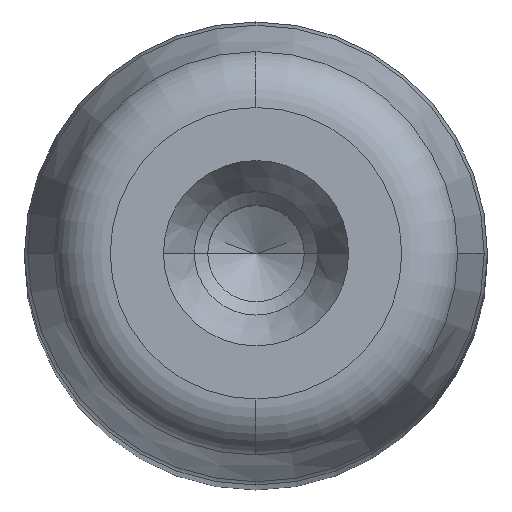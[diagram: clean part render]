
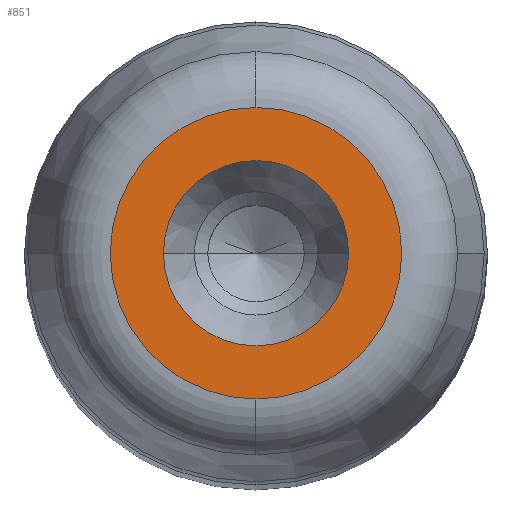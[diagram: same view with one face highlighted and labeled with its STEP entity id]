
A CAD part, top view. The second image highlights one B-rep face of the part: STEP entity #851.
In plain terms, the highlighted planar face has unit normal (0, 0, 1) as drawn and (0, 1, 0) by its records, which use the part's own axes.
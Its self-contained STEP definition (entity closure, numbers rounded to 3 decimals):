
#281=CARTESIAN_POINT('',(4.8,160.0,0.0));
#282=VERTEX_POINT('',#281);
#289=CARTESIAN_POINT('',(-4.8,160.0,0.));
#290=VERTEX_POINT('',#289);
#291=CARTESIAN_POINT('',(0.0,160.0,0.0));
#292=DIRECTION('',(0.0,1.0,0.0));
#293=DIRECTION('',(1.0,0.0,0.0));
#294=AXIS2_PLACEMENT_3D('',#291,#292,#293);
#295=CIRCLE('',#294,4.8);
#296=EDGE_CURVE('',#282,#290,#295,.T.);
#313=CARTESIAN_POINT('',(0.0,160.0,7.554));
#314=VERTEX_POINT('',#313);
#324=CARTESIAN_POINT('',(0.,160.0,-7.554));
#325=VERTEX_POINT('',#324);
#326=CARTESIAN_POINT('',(0.0,160.0,0.0));
#327=DIRECTION('',(0.0,1.0,0.0));
#328=DIRECTION('',(1.0,0.0,0.0));
#329=AXIS2_PLACEMENT_3D('',#326,#327,#328);
#330=CIRCLE('',#329,7.554);
#331=EDGE_CURVE('',#325,#314,#330,.T.);
#812=CARTESIAN_POINT('',(7.554,160.0,0.0));
#813=VERTEX_POINT('',#812);
#814=CARTESIAN_POINT('',(0.0,160.0,0.0));
#815=DIRECTION('',(0.0,1.0,0.0));
#816=DIRECTION('',(1.0,0.0,0.0));
#817=AXIS2_PLACEMENT_3D('',#814,#815,#816);
#818=CIRCLE('',#817,7.554);
#819=EDGE_CURVE('',#813,#325,#818,.T.);
#821=CARTESIAN_POINT('',(0.0,160.0,0.0));
#822=DIRECTION('',(0.0,1.0,0.0));
#823=DIRECTION('',(1.0,0.0,0.0));
#824=AXIS2_PLACEMENT_3D('',#821,#822,#823);
#825=CIRCLE('',#824,7.554);
#826=EDGE_CURVE('',#314,#813,#825,.T.);
#831=CARTESIAN_POINT('',(-8.31,160.0,-8.31));
#832=DIRECTION('',(0.0,1.0,0.0));
#833=DIRECTION('',(0.0,0.0,1.0));
#834=AXIS2_PLACEMENT_3D('',#831,#832,#833);
#835=PLANE('',#834);
#836=ORIENTED_EDGE('',*,*,#819,.T.);
#837=ORIENTED_EDGE('',*,*,#331,.T.);
#838=ORIENTED_EDGE('',*,*,#826,.T.);
#839=EDGE_LOOP('',(#836,#837,#838));
#840=FACE_OUTER_BOUND('',#839,.T.);
#841=ORIENTED_EDGE('',*,*,#296,.F.);
#842=CARTESIAN_POINT('',(0.0,160.0,0.0));
#843=DIRECTION('',(0.0,1.0,0.0));
#844=DIRECTION('',(1.0,0.0,0.0));
#845=AXIS2_PLACEMENT_3D('',#842,#843,#844);
#846=CIRCLE('',#845,4.8);
#847=EDGE_CURVE('',#290,#282,#846,.T.);
#848=ORIENTED_EDGE('',*,*,#847,.F.);
#849=EDGE_LOOP('',(#841,#848));
#850=FACE_BOUND('',#849,.T.);
#851=ADVANCED_FACE('',(#840,#850),#835,.T.);
